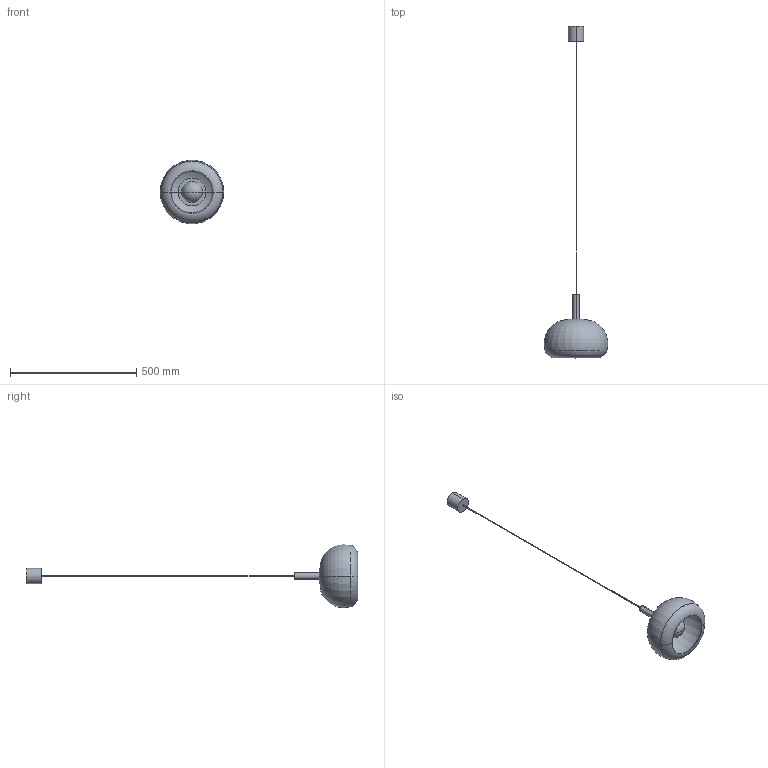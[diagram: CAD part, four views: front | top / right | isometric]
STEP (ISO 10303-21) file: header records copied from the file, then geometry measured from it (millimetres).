
FILE_DESCRIPTION (( 'STEP AP214' ), '1' );
FILE_NAME ('CLOUD_C1345_S.STEP', '2025-09-05T08:56:47', ( '' ), ( '' ), 'SwSTEP 2.0', 'SolidWorks 2018', '' );
FILE_SCHEMA (( 'AUTOMOTIVE_DESIGN' ));
Length unit declared in the file: millimetre
Products named in the file (1): CLOUD_C1345_S
Bounding box: 251.7 x 1312.19 x 249.86 mm (x, y, z)
Volume: 841839.9 mm3; surface area: 364615.7 mm2
Topology: 7 solids, 7 shells, 41 faces, 74 edges, 45 vertices
Faces by surface type: torus 14, cylinder 14, plane 13
Entity records: 1559 total; most frequent: DIRECTION 214, CARTESIAN_POINT 159, ORIENTED_EDGE 144, AXIS2_PLACEMENT_3D 100, EDGE_CURVE 72, CIRCLE 58, UNCERTAINTY_MEASURE_WITH_UNIT 50, MECHANICAL_DESIGN_GEOMETRIC_PRESENTATION_REPRESENTATION 49
